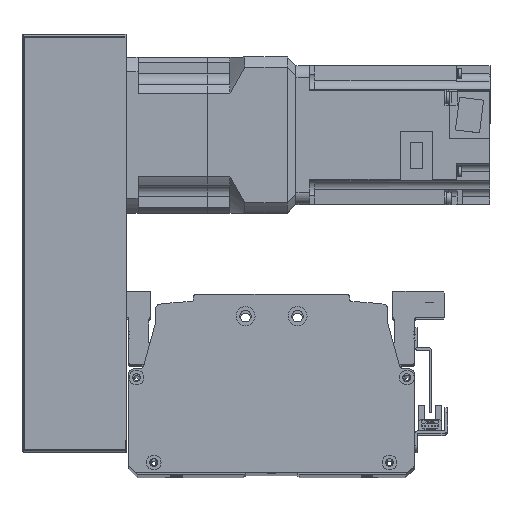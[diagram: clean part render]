
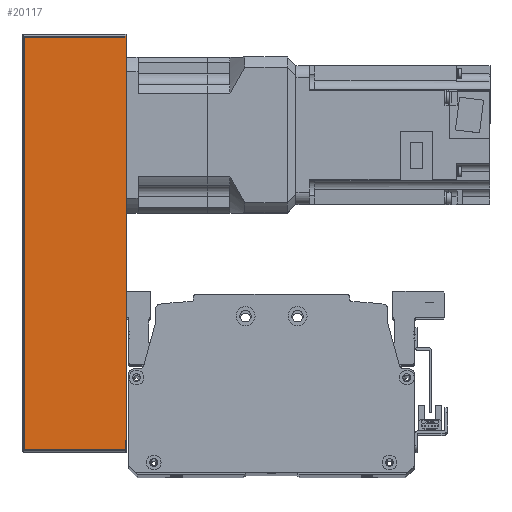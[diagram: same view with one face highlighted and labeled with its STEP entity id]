
A CAD part, top view. The second image highlights one B-rep face of the part: STEP entity #20117.
In plain terms, the highlighted planar face has unit normal (0, 0, 1) as drawn and (0, -1, 0) by its records, which use the part's own axes.
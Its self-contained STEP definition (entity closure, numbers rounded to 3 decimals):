
#597=PLANE('',#21947);
#1718=LINE('',#32315,#3378);
#1741=LINE('',#32402,#3401);
#1742=LINE('',#32410,#3402);
#1750=LINE('',#32436,#3410);
#3378=VECTOR('',#26151,10.);
#3401=VECTOR('',#26262,10.);
#3402=VECTOR('',#26273,10.);
#3410=VECTOR('',#26309,10.);
#5406=FACE_OUTER_BOUND('',#6846,.T.);
#6846=EDGE_LOOP('',(#16352,#16353,#16354,#16355));
#9722=VERTEX_POINT('',#32312);
#9723=VERTEX_POINT('',#32314);
#9743=VERTEX_POINT('',#32398);
#9744=VERTEX_POINT('',#32404);
#12085=EDGE_CURVE('',#9722,#9723,#1718,.T.);
#12130=EDGE_CURVE('',#9723,#9743,#1741,.T.);
#12134=EDGE_CURVE('',#9744,#9722,#1742,.T.);
#12148=EDGE_CURVE('',#9743,#9744,#1750,.T.);
#16352=ORIENTED_EDGE('',*,*,#12130,.F.);
#16353=ORIENTED_EDGE('',*,*,#12085,.F.);
#16354=ORIENTED_EDGE('',*,*,#12134,.F.);
#16355=ORIENTED_EDGE('',*,*,#12148,.F.);
#20117=ADVANCED_FACE('',(#5406),#597,.T.);
#21947=AXIS2_PLACEMENT_3D('',#32441,#26318,#26319);
#26151=DIRECTION('',(1.,0.,0.));
#26262=DIRECTION('',(0.,0.,-1.));
#26273=DIRECTION('',(0.,0.,1.));
#26309=DIRECTION('',(-1.,0.,0.));
#26318=DIRECTION('center_axis',(0.,-1.,0.));
#26319=DIRECTION('ref_axis',(1.,0.,0.));
#32312=CARTESIAN_POINT('',(-119.5,-51.,30.));
#32314=CARTESIAN_POINT('',(119.5,-51.,30.));
#32315=CARTESIAN_POINT('',(120.5,-51.,30.));
#32398=CARTESIAN_POINT('',(119.5,-51.,-29.));
#32402=CARTESIAN_POINT('',(119.5,-51.,0.));
#32404=CARTESIAN_POINT('',(-119.5,-51.,-29.));
#32410=CARTESIAN_POINT('',(-119.5,-51.,0.));
#32436=CARTESIAN_POINT('',(-60.25,-51.,-29.));
#32441=CARTESIAN_POINT('Origin',(-120.5,-51.,0.));
